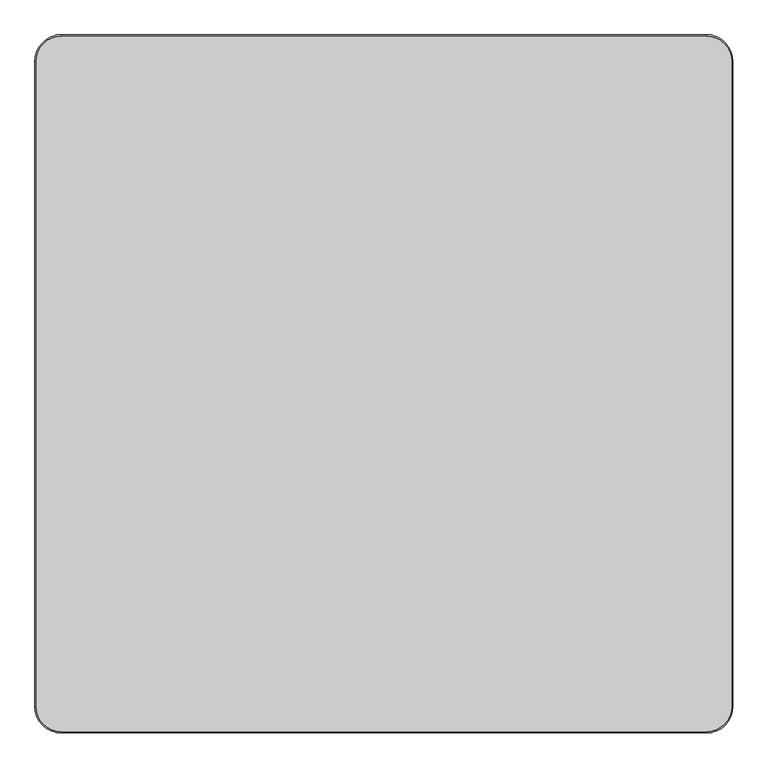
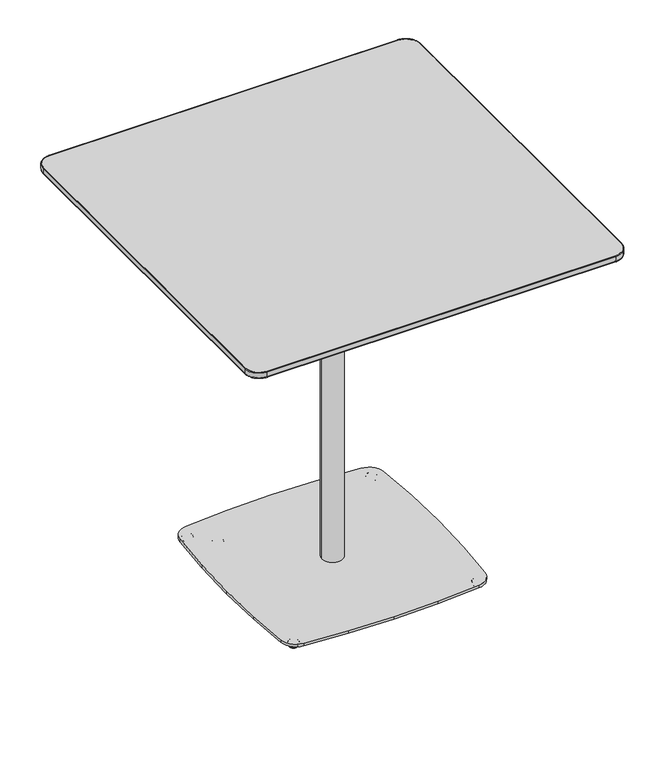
"""IFC4 building model written with IfcOpenShell, lengths in millimetres: furniture geometry, Coalesse_AM_Table_Occasional_Montara650Table_CafeHeight_Square : Bar Height - 42D x 42W."""

from ifc_helpers import new_model, si_unit, point, frame, frame_2d, origin, place, context, project, spatial, polyline, circle_curve, ellipse_curve, trimmed, segment, composite_curve, outline, extrude, source, transform, mapped, element, save
from ifc_brep_helpers import plane_surface, cylinder_surface, revolved_surface, spline_surface, advanced_brep


def furniture_814abe16(model_context):
    return source(origin(), model_context, "Body", "SolidModel", [
        advanced_brep(
        [(252.3158533, 252.1363755, 0.0), (267.0011381, 266.8216603, 0.0), (259.6584957, 259.4790179, 0.0), (251.7693511, 251.5898733, 0.5718943), (267.5476403, 267.3681625, 0.5718943), (249.470252, 249.2907742, 11.2068005), (269.8467394, 269.6672616, 11.2068005), (249.8852728, 249.705795, 11.9999882), (269.4317186, 269.2522408, 11.9999882), (259.6584957, 259.4790179, 11.9999882)],
        [
            (0, 1, circle_curve(frame((259.6584957, 259.4790179, 0.0), z_axis=(0.0, 0.0, -1.0), x_axis=(0.7071067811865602, 0.7071067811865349, 0.0)), 10.3840645)),
            (1, 2),
            (2, 0),
            (1, 0, circle_curve(frame((259.6584957, 259.4790179, 0.0), z_axis=(0.0, 0.0, -1.0), x_axis=(0.7071067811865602, 0.7071067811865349, 0.0)), 10.3840645)),
            (3, 4, circle_curve(frame((259.6584957, 259.4790179, 0.5718943), z_axis=(0.0, 0.0, -1.0), x_axis=(0.7071067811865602, 0.7071067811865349, 0.0)), 11.1569353)),
            (4, 1, circle_curve(frame((267.0011381, 266.8216603, 0.8081846), z_axis=(-0.7071067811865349, 0.7071067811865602, 0.0), x_axis=(0.7071067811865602, 0.7071067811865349, 0.0)), 0.8081846)),
            (0, 3, circle_curve(frame((252.3158533, 252.1363755, 0.8081846), z_axis=(-0.7071067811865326, 0.7071067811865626, 0.0), x_axis=(-0.7071067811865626, -0.7071067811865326, 0.0)), 0.8081846)),
            (4, 3, circle_curve(frame((259.6584957, 259.4790179, 0.5718943), z_axis=(0.0, 0.0, -1.0), x_axis=(0.7071067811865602, 0.7071067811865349, 0.0)), 11.1569353)),
            (5, 6, circle_curve(frame((259.6584957, 259.4790179, 11.2068005), z_axis=(0.0, 0.0, -1.0), x_axis=(0.7071067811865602, 0.7071067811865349, 0.0)), 14.4083524)),
            (6, 4),
            (3, 5),
            (6, 5, circle_curve(frame((259.6584957, 259.4790179, 11.2068005), z_axis=(0.0, 0.0, -1.0), x_axis=(0.7071067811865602, 0.7071067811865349, 0.0)), 14.4083524)),
            (7, 8, circle_curve(frame((259.6584957, 259.4790179, 11.9999882), z_axis=(0.0, 0.0, -1.0), x_axis=(0.7071067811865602, 0.7071067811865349, 0.0)), 13.8214243)),
            (8, 6, circle_curve(frame((269.4317186, 269.2522408, 11.3862424), z_axis=(-0.7071067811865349, 0.7071067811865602, 0.0), x_axis=(0.7071067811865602, 0.7071067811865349, 0.0)), 0.6137458)),
            (5, 7, circle_curve(frame((249.8852728, 249.705795, 11.3862424), z_axis=(-0.7071067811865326, 0.7071067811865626, 0.0), x_axis=(-0.7071067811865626, -0.7071067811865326, 0.0)), 0.6137458)),
            (8, 7, circle_curve(frame((259.6584957, 259.4790179, 11.9999882), z_axis=(0.0, 0.0, -1.0), x_axis=(0.7071067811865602, 0.7071067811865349, 0.0)), 13.8214243)),
            (9, 8),
            (7, 9),
        ],
        [
            plane_surface(frame((259.6584957, 259.4790179, 0.0), z_axis=(0.0, 0.0, -1.0000000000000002), x_axis=(0.7071067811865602, 0.7071067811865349, 0.0))),
            revolved_surface(trimmed(ellipse_curve(frame((267.0011381, 266.8216603, 0.8081846), z_axis=(0.7071067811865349, -0.7071067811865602, 0.0), x_axis=(0.7071067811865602, 0.7071067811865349, 0.0)), 0.8081846, 0.8081846), [point((267.0011381, 266.8216603, 0.0))], [point((267.5476403, 267.3681625, 0.5718943))], True, "CARTESIAN"), (259.6584957, 259.4790179, 12.2086845), (0.0, 0.0, 1.0)),
            revolved_surface(polyline([(267.5476403, 267.3681625, 0.5718943), (269.8467394, 269.6672616, 11.2068005)]), (259.6584957, 259.4790179, 12.2086845), (0.0, 0.0, 1.0)),
            revolved_surface(trimmed(ellipse_curve(frame((269.4317186, 269.2522408, 11.3862424), z_axis=(0.7071067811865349, -0.7071067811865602, 0.0), x_axis=(0.7071067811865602, 0.7071067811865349, 0.0)), 0.6137458, 0.6137458), [point((269.8467394, 269.6672616, 11.2068005))], [point((269.4317186, 269.2522408, 11.9999882))], True, "CARTESIAN"), (259.6584957, 259.4790179, 12.2086845), (0.0, 0.0, 1.0)),
            plane_surface(frame((259.6584957, 259.4790179, 11.9999882), z_axis=(0.0, 0.0, 1.0000000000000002), x_axis=(0.7071067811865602, 0.7071067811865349, 0.0))),
        ],
        [
            (0, [[1, 2, 3]]),
            (0, [[4, -3, -2]]),
            (1, [[5, 6, -1, 7]]),
            (1, [[8, -7, -4, -6]]),
            (2, [[9, 10, -5, 11]]),
            (2, [[12, -11, -8, -10]]),
            (3, [[13, 14, -9, 15]]),
            (3, [[16, -15, -12, -14]]),
            (4, [[17, -13, 18]]),
            (4, [[-18, -16, -17]]),
        ],
    ),
        advanced_brep(
        [(259.8015382, -259.9111532, 0.0), (267.1441807, -267.2537956, 0.0), (252.4588958, -252.5685107, 0.0), (267.6906828, -267.8002977, 0.5718943), (251.9123937, -252.0220086, 0.5718943), (269.9897819, -270.0993968, 11.2068005), (249.6132946, -249.7229095, 11.2068005), (269.5747611, -269.684376, 11.9999882), (250.0283154, -250.1379303, 11.9999882), (259.8015382, -259.9111532, 11.9999882)],
        [
            (0, 1),
            (1, 2, circle_curve(frame((259.8015382, -259.9111532, 0.0), z_axis=(0.0, 0.0, -1.0), x_axis=(0.7071067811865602, -0.7071067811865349, 0.0)), 10.3840645)),
            (2, 0),
            (2, 1, circle_curve(frame((259.8015382, -259.9111532, 0.0), z_axis=(0.0, 0.0, -1.0), x_axis=(0.7071067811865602, -0.7071067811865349, 0.0)), 10.3840645)),
            (1, 3, circle_curve(frame((267.1441807, -267.2537956, 0.8081846), z_axis=(-0.7071067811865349, -0.7071067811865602, 0.0), x_axis=(0.7071067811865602, -0.7071067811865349, 0.0)), 0.8081846)),
            (3, 4, circle_curve(frame((259.8015382, -259.9111532, 0.5718943), z_axis=(0.0, 0.0, -1.0), x_axis=(0.7071067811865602, -0.7071067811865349, 0.0)), 11.1569353)),
            (4, 2, circle_curve(frame((252.4588958, -252.5685107, 0.8081846), z_axis=(-0.7071067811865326, -0.7071067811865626, 0.0), x_axis=(-0.7071067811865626, 0.7071067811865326, 0.0)), 0.8081846)),
            (4, 3, circle_curve(frame((259.8015382, -259.9111532, 0.5718943), z_axis=(0.0, 0.0, -1.0), x_axis=(0.7071067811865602, -0.7071067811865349, 0.0)), 11.1569353)),
            (3, 5),
            (5, 6, circle_curve(frame((259.8015382, -259.9111532, 11.2068005), z_axis=(0.0, 0.0, -1.0), x_axis=(0.7071067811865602, -0.7071067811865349, 0.0)), 14.4083524)),
            (6, 4),
            (6, 5, circle_curve(frame((259.8015382, -259.9111532, 11.2068005), z_axis=(0.0, 0.0, -1.0), x_axis=(0.7071067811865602, -0.7071067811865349, 0.0)), 14.4083524)),
            (5, 7, circle_curve(frame((269.5747611, -269.684376, 11.3862424), z_axis=(-0.7071067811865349, -0.7071067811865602, 0.0), x_axis=(0.7071067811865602, -0.7071067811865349, 0.0)), 0.6137458)),
            (7, 8, circle_curve(frame((259.8015382, -259.9111532, 11.9999882), z_axis=(0.0, 0.0, -1.0), x_axis=(0.7071067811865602, -0.7071067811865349, 0.0)), 13.8214243)),
            (8, 6, circle_curve(frame((250.0283154, -250.1379303, 11.3862424), z_axis=(-0.7071067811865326, -0.7071067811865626, 0.0), x_axis=(-0.7071067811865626, 0.7071067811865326, 0.0)), 0.6137458)),
            (8, 7, circle_curve(frame((259.8015382, -259.9111532, 11.9999882), z_axis=(0.0, 0.0, -1.0), x_axis=(0.7071067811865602, -0.7071067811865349, 0.0)), 13.8214243)),
            (7, 9),
            (9, 8),
        ],
        [
            plane_surface(frame((259.8015382, -259.9111532, 0.0), z_axis=(0.0, 0.0, -1.0000000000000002), x_axis=(0.7071067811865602, -0.7071067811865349, 0.0))),
            revolved_surface(trimmed(ellipse_curve(frame((267.1441807, -267.2537956, 0.8081846), z_axis=(0.7071067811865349, 0.7071067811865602, 0.0), x_axis=(0.7071067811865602, -0.7071067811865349, 0.0)), 0.8081846, 0.8081846), [point((267.6906828, -267.8002977, 0.5718943))], [point((267.1441807, -267.2537956, 0.0))], True, "CARTESIAN"), (259.8015382, -259.9111532, 12.2086845), (0.0, 0.0, -1.0)),
            revolved_surface(polyline([(269.9897819, -270.0993968, 11.2068005), (267.6906828, -267.8002977, 0.5718943)]), (259.8015382, -259.9111532, 12.2086845), (0.0, 0.0, -1.0)),
            revolved_surface(trimmed(ellipse_curve(frame((269.5747611, -269.684376, 11.3862424), z_axis=(0.7071067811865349, 0.7071067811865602, 0.0), x_axis=(0.7071067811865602, -0.7071067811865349, 0.0)), 0.6137458, 0.6137458), [point((269.5747611, -269.684376, 11.9999882))], [point((269.9897819, -270.0993968, 11.2068005))], True, "CARTESIAN"), (259.8015382, -259.9111532, 12.2086845), (0.0, 0.0, -1.0)),
            plane_surface(frame((259.8015382, -259.9111532, 11.9999882), z_axis=(0.0, 0.0, 1.0000000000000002), x_axis=(0.7071067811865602, -0.7071067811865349, 0.0))),
        ],
        [
            (0, [[1, 2, 3]]),
            (0, [[-3, 4, -1]]),
            (1, [[-2, 5, 6, 7]]),
            (1, [[-4, -7, 8, -5]]),
            (2, [[-6, 9, 10, 11]]),
            (2, [[-8, -11, 12, -9]]),
            (3, [[-10, 13, 14, 15]]),
            (3, [[-12, -15, 16, -13]]),
            (4, [[-14, 17, 18]]),
            (4, [[-16, -18, -17]]),
        ],
    ),
        extrude(outline(composite_curve([segment(trimmed(circle_curve(frame_2d((-243.9942116, 243.996709)), 44.45), [point((-288.3392595, 247.0494508))], [point((-247.0469534, 288.3417568))], False, "CARTESIAN"), True, "CONTINUOUS"), segment(polyline([(-247.0469534, 288.3417568), (-126.1187996, 296.6665291), (-0.0009163, 300.0012093), (126.116967, 296.6665291), (247.0474572, 288.341596)]), True, "CONTINUOUS"), segment(trimmed(circle_curve(frame_2d((243.9947155, 243.9965482)), 44.45), [point((247.0474572, 288.341596))], [point((288.3397633, 247.0492899))], False, "CARTESIAN"), True, "CONTINUOUS"), segment(polyline([(288.3397633, 247.0492899), (296.6646964, 126.1187996), (299.9993766, 0.0009163), (296.6646964, -126.116967), (288.3399178, -247.0452123)]), True, "CONTINUOUS"), segment(trimmed(circle_curve(frame_2d((243.99487, -243.9924705)), 44.45), [point((288.3399178, -247.0452123))], [point((247.0484272, -288.3374622))], False, "CARTESIAN"), True, "CONTINUOUS"), segment(polyline([(247.0484272, -288.3374622), (126.116967, -296.6646964), (-0.0009163, -299.9993766), (-126.1187996, -296.6646964), (-247.0479234, -288.3376231)]), True, "CONTINUOUS"), segment(trimmed(circle_curve(frame_2d((-243.9943662, -243.9926314)), 44.45), [point((-247.0479234, -288.3376231))], [point((-288.339414, -247.0453732))], False, "CARTESIAN"), True, "CONTINUOUS"), segment(polyline([(-288.339414, -247.0453732), (-296.6642037, -126.116967), (-299.9988839, 0.0009163), (-296.6642037, 126.1187996), (-288.3392595, 247.0494508)]), True, "CONTINUOUS")], self_intersect=False)), frame((0.0, 0.0, 11.9999882), z_axis=(0.0, 0.0, 1.0), x_axis=(1.0, 0.0, 0.0)), (0.0, 0.0, 1.0), 8.0000083),
        advanced_brep(
        [(-259.8122576, 259.6204684, 0.0), (-267.1549, 266.9631108, 0.0), (-252.4696151, 252.277826, 0.0), (-267.7014021, 267.509613, 0.5718943), (-251.923113, 251.7313238, 0.5718943), (-270.0005012, 269.8087121, 11.2068005), (-249.6240139, 249.4322247, 11.2068005), (-269.5854804, 269.3936913, 11.9999882), (-250.0390347, 249.8472455, 11.9999882), (-259.8122576, 259.6204684, 11.9999882)],
        [
            (0, 1),
            (1, 2, circle_curve(frame((-259.8122576, 259.6204684, 0.0), z_axis=(0.0, 0.0, -1.0), x_axis=(-0.7071067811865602, 0.7071067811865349, 0.0)), 10.3840645)),
            (2, 0),
            (2, 1, circle_curve(frame((-259.8122576, 259.6204684, 0.0), z_axis=(0.0, 0.0, -1.0), x_axis=(-0.7071067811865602, 0.7071067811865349, 0.0)), 10.3840645)),
            (1, 3, circle_curve(frame((-267.1549, 266.9631108, 0.8081846), z_axis=(0.7071067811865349, 0.7071067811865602, 0.0), x_axis=(-0.7071067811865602, 0.7071067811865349, 0.0)), 0.8081846)),
            (3, 4, circle_curve(frame((-259.8122576, 259.6204684, 0.5718943), z_axis=(0.0, 0.0, -1.0), x_axis=(-0.7071067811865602, 0.7071067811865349, 0.0)), 11.1569353)),
            (4, 2, circle_curve(frame((-252.4696151, 252.277826, 0.8081846), z_axis=(0.7071067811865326, 0.7071067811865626, 0.0), x_axis=(0.7071067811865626, -0.7071067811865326, 0.0)), 0.8081846)),
            (4, 3, circle_curve(frame((-259.8122576, 259.6204684, 0.5718943), z_axis=(0.0, 0.0, -1.0), x_axis=(-0.7071067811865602, 0.7071067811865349, 0.0)), 11.1569353)),
            (3, 5),
            (5, 6, circle_curve(frame((-259.8122576, 259.6204684, 11.2068005), z_axis=(0.0, 0.0, -1.0), x_axis=(-0.7071067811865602, 0.7071067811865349, 0.0)), 14.4083524)),
            (6, 4),
            (6, 5, circle_curve(frame((-259.8122576, 259.6204684, 11.2068005), z_axis=(0.0, 0.0, -1.0), x_axis=(-0.7071067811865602, 0.7071067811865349, 0.0)), 14.4083524)),
            (5, 7, circle_curve(frame((-269.5854804, 269.3936913, 11.3862424), z_axis=(0.7071067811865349, 0.7071067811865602, 0.0), x_axis=(-0.7071067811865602, 0.7071067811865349, 0.0)), 0.6137458)),
            (7, 8, circle_curve(frame((-259.8122576, 259.6204684, 11.9999882), z_axis=(0.0, 0.0, -1.0), x_axis=(-0.7071067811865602, 0.7071067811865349, 0.0)), 13.8214243)),
            (8, 6, circle_curve(frame((-250.0390347, 249.8472455, 11.3862424), z_axis=(0.7071067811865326, 0.7071067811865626, 0.0), x_axis=(0.7071067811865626, -0.7071067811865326, 0.0)), 0.6137458)),
            (8, 7, circle_curve(frame((-259.8122576, 259.6204684, 11.9999882), z_axis=(0.0, 0.0, -1.0), x_axis=(-0.7071067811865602, 0.7071067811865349, 0.0)), 13.8214243)),
            (7, 9),
            (9, 8),
        ],
        [
            plane_surface(frame((-259.8122576, 259.6204684, 0.0), z_axis=(0.0, 0.0, -1.0000000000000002), x_axis=(-0.7071067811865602, 0.7071067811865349, 0.0))),
            revolved_surface(trimmed(ellipse_curve(frame((-267.1549, 266.9631108, 0.8081846), z_axis=(-0.7071067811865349, -0.7071067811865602, 0.0), x_axis=(-0.7071067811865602, 0.7071067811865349, 0.0)), 0.8081846, 0.8081846), [point((-267.7014021, 267.509613, 0.5718943))], [point((-267.1549, 266.9631108, 0.0))], True, "CARTESIAN"), (-259.8122576, 259.6204684, 12.2086845), (0.0, 0.0, -1.0)),
            revolved_surface(polyline([(-270.0005012, 269.8087121, 11.2068005), (-267.7014021, 267.509613, 0.5718943)]), (-259.8122576, 259.6204684, 12.2086845), (0.0, 0.0, -1.0)),
            revolved_surface(trimmed(ellipse_curve(frame((-269.5854804, 269.3936913, 11.3862424), z_axis=(-0.7071067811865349, -0.7071067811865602, 0.0), x_axis=(-0.7071067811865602, 0.7071067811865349, 0.0)), 0.6137458, 0.6137458), [point((-269.5854804, 269.3936913, 11.9999882))], [point((-270.0005012, 269.8087121, 11.2068005))], True, "CARTESIAN"), (-259.8122576, 259.6204684, 12.2086845), (0.0, 0.0, -1.0)),
            plane_surface(frame((-259.8122576, 259.6204684, 11.9999882), z_axis=(0.0, 0.0, 1.0000000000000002), x_axis=(-0.7071067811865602, 0.7071067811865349, 0.0))),
        ],
        [
            (0, [[1, 2, 3]]),
            (0, [[-3, 4, -1]]),
            (1, [[-2, 5, 6, 7]]),
            (1, [[-4, -7, 8, -5]]),
            (2, [[-6, 9, 10, 11]]),
            (2, [[-8, -11, 12, -9]]),
            (3, [[-10, 13, 14, 15]]),
            (3, [[-12, -15, 16, -13]]),
            (4, [[-14, 17, 18]]),
            (4, [[-16, -18, -17]]),
        ],
    ),
        advanced_brep(
        [(-252.8175248, -252.4969322, 0.0), (-267.5028096, -267.182217, 0.0), (-260.1601672, -259.8395746, 0.0), (-252.2710226, -251.95043, 0.5718943), (-268.0493118, -267.7287192, 0.5718943), (-249.9719235, -249.6513309, 11.2068005), (-270.3484109, -270.0278183, 11.2068005), (-250.3869443, -250.0663517, 11.9999882), (-269.9333901, -269.6127975, 11.9999882), (-260.1601672, -259.8395746, 11.9999882)],
        [
            (0, 1, circle_curve(frame((-260.1601672, -259.8395746, 0.0), z_axis=(0.0, 0.0, -1.0), x_axis=(-0.7071067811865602, -0.7071067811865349, 0.0)), 10.3840645)),
            (1, 2),
            (2, 0),
            (1, 0, circle_curve(frame((-260.1601672, -259.8395746, 0.0), z_axis=(0.0, 0.0, -1.0), x_axis=(-0.7071067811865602, -0.7071067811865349, 0.0)), 10.3840645)),
            (3, 4, circle_curve(frame((-260.1601672, -259.8395746, 0.5718943), z_axis=(0.0, 0.0, -1.0), x_axis=(-0.7071067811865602, -0.7071067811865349, 0.0)), 11.1569353)),
            (4, 1, circle_curve(frame((-267.5028096, -267.182217, 0.8081846), z_axis=(0.7071067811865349, -0.7071067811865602, 0.0), x_axis=(-0.7071067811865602, -0.7071067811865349, 0.0)), 0.8081846)),
            (0, 3, circle_curve(frame((-252.8175248, -252.4969322, 0.8081846), z_axis=(0.7071067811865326, -0.7071067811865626, 0.0), x_axis=(0.7071067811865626, 0.7071067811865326, 0.0)), 0.8081846)),
            (4, 3, circle_curve(frame((-260.1601672, -259.8395746, 0.5718943), z_axis=(0.0, 0.0, -1.0), x_axis=(-0.7071067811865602, -0.7071067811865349, 0.0)), 11.1569353)),
            (5, 6, circle_curve(frame((-260.1601672, -259.8395746, 11.2068005), z_axis=(0.0, 0.0, -1.0), x_axis=(-0.7071067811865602, -0.7071067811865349, 0.0)), 14.4083524)),
            (6, 4),
            (3, 5),
            (6, 5, circle_curve(frame((-260.1601672, -259.8395746, 11.2068005), z_axis=(0.0, 0.0, -1.0), x_axis=(-0.7071067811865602, -0.7071067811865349, 0.0)), 14.4083524)),
            (7, 8, circle_curve(frame((-260.1601672, -259.8395746, 11.9999882), z_axis=(0.0, 0.0, -1.0), x_axis=(-0.7071067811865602, -0.7071067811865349, 0.0)), 13.8214243)),
            (8, 6, circle_curve(frame((-269.9333901, -269.6127975, 11.3862424), z_axis=(0.7071067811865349, -0.7071067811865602, 0.0), x_axis=(-0.7071067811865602, -0.7071067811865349, 0.0)), 0.6137458)),
            (5, 7, circle_curve(frame((-250.3869443, -250.0663517, 11.3862424), z_axis=(0.7071067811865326, -0.7071067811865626, 0.0), x_axis=(0.7071067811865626, 0.7071067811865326, 0.0)), 0.6137458)),
            (8, 7, circle_curve(frame((-260.1601672, -259.8395746, 11.9999882), z_axis=(0.0, 0.0, -1.0), x_axis=(-0.7071067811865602, -0.7071067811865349, 0.0)), 13.8214243)),
            (9, 8),
            (7, 9),
        ],
        [
            plane_surface(frame((-260.1601672, -259.8395746, 0.0), z_axis=(0.0, 0.0, -1.0000000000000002), x_axis=(-0.7071067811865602, -0.7071067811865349, 0.0))),
            revolved_surface(trimmed(ellipse_curve(frame((-267.5028096, -267.182217, 0.8081846), z_axis=(-0.7071067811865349, 0.7071067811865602, 0.0), x_axis=(-0.7071067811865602, -0.7071067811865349, 0.0)), 0.8081846, 0.8081846), [point((-267.5028096, -267.182217, 0.0))], [point((-268.0493118, -267.7287192, 0.5718943))], True, "CARTESIAN"), (-260.1601672, -259.8395746, 12.2086845), (0.0, 0.0, 1.0)),
            revolved_surface(polyline([(-268.0493118, -267.7287192, 0.5718943), (-270.3484109, -270.0278183, 11.2068005)]), (-260.1601672, -259.8395746, 12.2086845), (0.0, 0.0, 1.0)),
            revolved_surface(trimmed(ellipse_curve(frame((-269.9333901, -269.6127975, 11.3862424), z_axis=(-0.7071067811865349, 0.7071067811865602, 0.0), x_axis=(-0.7071067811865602, -0.7071067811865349, 0.0)), 0.6137458, 0.6137458), [point((-270.3484109, -270.0278183, 11.2068005))], [point((-269.9333901, -269.6127975, 11.9999882))], True, "CARTESIAN"), (-260.1601672, -259.8395746, 12.2086845), (0.0, 0.0, 1.0)),
            plane_surface(frame((-260.1601672, -259.8395746, 11.9999882), z_axis=(0.0, 0.0, 1.0000000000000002), x_axis=(-0.7071067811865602, -0.7071067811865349, 0.0))),
        ],
        [
            (0, [[1, 2, 3]]),
            (0, [[4, -3, -2]]),
            (1, [[5, 6, -1, 7]]),
            (1, [[8, -7, -4, -6]]),
            (2, [[9, 10, -5, 11]]),
            (2, [[12, -11, -8, -10]]),
            (3, [[13, 14, -9, 15]]),
            (3, [[16, -15, -12, -14]]),
            (4, [[17, -13, 18]]),
            (4, [[-18, -16, -17]]),
        ],
    ),
        advanced_brep(
        [(-204.8873489, 205.5044028, 0.0), (-212.2299913, 212.8470453, 0.0), (-197.5447065, 198.1617604, 0.0), (-212.7764935, 213.3935474, 0.5718943), (-196.9982043, 197.6152583, 0.5718943), (-215.0755926, 215.6926465, 11.2068005), (-194.6991052, 195.3161592, 11.2068005), (-214.6605718, 215.2776257, 11.9999882), (-195.114126, 195.73118, 11.9999882), (-204.8873489, 205.5044028, 11.9999882)],
        [
            (0, 1),
            (1, 2, circle_curve(frame((-204.8873489, 205.5044028, 0.0), z_axis=(0.0, 0.0, -1.0), x_axis=(-0.7071067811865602, 0.7071067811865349, 0.0)), 10.3840645)),
            (2, 0),
            (2, 1, circle_curve(frame((-204.8873489, 205.5044028, 0.0), z_axis=(0.0, 0.0, -1.0), x_axis=(-0.7071067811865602, 0.7071067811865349, 0.0)), 10.3840645)),
            (1, 3, circle_curve(frame((-212.2299913, 212.8470453, 0.8081846), z_axis=(0.7071067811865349, 0.7071067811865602, 0.0), x_axis=(-0.7071067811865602, 0.7071067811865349, 0.0)), 0.8081846)),
            (3, 4, circle_curve(frame((-204.8873489, 205.5044028, 0.5718943), z_axis=(0.0, 0.0, -1.0), x_axis=(-0.7071067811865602, 0.7071067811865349, 0.0)), 11.1569353)),
            (4, 2, circle_curve(frame((-197.5447065, 198.1617604, 0.8081846), z_axis=(0.7071067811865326, 0.7071067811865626, 0.0), x_axis=(0.7071067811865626, -0.7071067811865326, 0.0)), 0.8081846)),
            (4, 3, circle_curve(frame((-204.8873489, 205.5044028, 0.5718943), z_axis=(0.0, 0.0, -1.0), x_axis=(-0.7071067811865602, 0.7071067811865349, 0.0)), 11.1569353)),
            (3, 5),
            (5, 6, circle_curve(frame((-204.8873489, 205.5044028, 11.2068005), z_axis=(0.0, 0.0, -1.0), x_axis=(-0.7071067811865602, 0.7071067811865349, 0.0)), 14.4083524)),
            (6, 4),
            (6, 5, circle_curve(frame((-204.8873489, 205.5044028, 11.2068005), z_axis=(0.0, 0.0, -1.0), x_axis=(-0.7071067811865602, 0.7071067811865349, 0.0)), 14.4083524)),
            (5, 7, circle_curve(frame((-214.6605718, 215.2776257, 11.3862424), z_axis=(0.7071067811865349, 0.7071067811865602, 0.0), x_axis=(-0.7071067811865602, 0.7071067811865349, 0.0)), 0.6137458)),
            (7, 8, circle_curve(frame((-204.8873489, 205.5044028, 11.9999882), z_axis=(0.0, 0.0, -1.0), x_axis=(-0.7071067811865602, 0.7071067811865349, 0.0)), 13.8214243)),
            (8, 6, circle_curve(frame((-195.114126, 195.73118, 11.3862424), z_axis=(0.7071067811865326, 0.7071067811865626, 0.0), x_axis=(0.7071067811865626, -0.7071067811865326, 0.0)), 0.6137458)),
            (8, 7, circle_curve(frame((-204.8873489, 205.5044028, 11.9999882), z_axis=(0.0, 0.0, -1.0), x_axis=(-0.7071067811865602, 0.7071067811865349, 0.0)), 13.8214243)),
            (7, 9),
            (9, 8),
        ],
        [
            plane_surface(frame((-204.8873489, 205.5044028, 0.0), z_axis=(0.0, 0.0, -1.0000000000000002), x_axis=(-0.7071067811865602, 0.7071067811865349, 0.0))),
            revolved_surface(trimmed(ellipse_curve(frame((-212.2299913, 212.8470453, 0.8081846), z_axis=(-0.7071067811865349, -0.7071067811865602, 0.0), x_axis=(-0.7071067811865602, 0.7071067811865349, 0.0)), 0.8081846, 0.8081846), [point((-212.7764935, 213.3935474, 0.5718943))], [point((-212.2299913, 212.8470453, 0.0))], True, "CARTESIAN"), (-204.8873489, 205.5044028, 12.2086845), (0.0, 0.0, -1.0)),
            revolved_surface(polyline([(-215.0755926, 215.6926465, 11.2068005), (-212.7764935, 213.3935474, 0.5718943)]), (-204.8873489, 205.5044028, 12.2086845), (0.0, 0.0, -1.0)),
            revolved_surface(trimmed(ellipse_curve(frame((-214.6605718, 215.2776257, 11.3862424), z_axis=(-0.7071067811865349, -0.7071067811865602, 0.0), x_axis=(-0.7071067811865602, 0.7071067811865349, 0.0)), 0.6137458, 0.6137458), [point((-214.6605718, 215.2776257, 11.9999882))], [point((-215.0755926, 215.6926465, 11.2068005))], True, "CARTESIAN"), (-204.8873489, 205.5044028, 12.2086845), (0.0, 0.0, -1.0)),
            plane_surface(frame((-204.8873489, 205.5044028, 11.9999882), z_axis=(0.0, 0.0, 1.0000000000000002), x_axis=(-0.7071067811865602, 0.7071067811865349, 0.0))),
        ],
        [
            (0, [[1, 2, 3]]),
            (0, [[-3, 4, -1]]),
            (1, [[-2, 5, 6, 7]]),
            (1, [[-4, -7, 8, -5]]),
            (2, [[-6, 9, 10, 11]]),
            (2, [[-8, -11, 12, -9]]),
            (3, [[-10, 13, 14, 15]]),
            (3, [[-12, -15, 16, -13]]),
            (4, [[-14, 17, 18]]),
            (4, [[-16, -18, -17]]),
        ],
    ),
        advanced_brep(
        [(468.4626362, 468.4635082, 1036.830027), (468.4626362, -468.4635082, 1036.830027), (-468.4626362, -468.4635082, 1036.830027), (-468.4626362, 468.4635082, 1036.830027), (493.188625, 531.368, 1049.095891), (-493.188625, 531.368, 1049.095891), (-531.288625, 493.268, 1049.095891), (-531.288625, -493.268, 1049.095891), (-493.188625, -531.368, 1049.095891), (493.188625, -531.368, 1049.095891), (531.288625, -493.268, 1049.095891), (531.288625, 493.268, 1049.095891)],
        [
            (0, 1),
            (1, 2),
            (2, 3),
            (3, 0),
            (4, 5),
            (5, 6, circle_curve(frame((-493.188625, 493.268, 1049.095891), z_axis=(0.0, 0.0, 1.0), x_axis=(1.0, 0.0, 0.0)), 38.1)),
            (6, 7),
            (7, 8, circle_curve(frame((-493.188625, -493.268, 1049.095891), z_axis=(0.0, 0.0, 1.0), x_axis=(1.0, 0.0, 0.0)), 38.1)),
            (8, 9),
            (9, 10, circle_curve(frame((493.188625, -493.268, 1049.095891), z_axis=(0.0, 0.0, 1.0), x_axis=(1.0, 0.0, 0.0)), 38.1)),
            (10, 11),
            (11, 4, circle_curve(frame((493.188625, 493.268, 1049.095891), z_axis=(0.0, 0.0, 1.0), x_axis=(1.0, 0.0, 0.0)), 38.1)),
            (11, 0),
            (0, 4),
            (10, 1),
            (9, 1),
            (8, 2),
            (7, 2),
            (6, 3),
            (5, 3),
        ],
        [
            plane_surface(frame((0.0, 0.0, 1036.830027), z_axis=(0.0, 0.0, -1.0), x_axis=(-1.0, 0.0, 0.0))),
            plane_surface(frame((0.0, 0.0, 1049.095891), z_axis=(0.0, 0.0, 1.0), x_axis=(-1.0, 0.0, 0.0))),
            spline_surface(2, 1, [[(493.188625, 531.368, 1049.095891), (468.4626362, 468.4635082, 1036.830027)], [(531.2886250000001, 531.3680000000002, 1049.095891), (468.4626362, 468.4635082, 1036.830027)], [(531.288625, 493.268, 1049.095891), (468.4626362, 468.4635082, 1036.830027)]], [3, 3], [2, 2], [0.0, 1.0], [0.0, 1.0], weights=[[1.0, 1.0], [0.707106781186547, 0.707106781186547], [1.0, 1.0]]),
            plane_surface(frame((531.288625, 0.0, 1049.095891), z_axis=(0.19161772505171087, 0.0, -0.9814696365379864), x_axis=(0.0, -1.0, 0.0))),
            spline_surface(2, 1, [[(531.288625, -493.268, 1049.095891), (468.4626362, -468.4635082, 1036.830027)], [(531.2886249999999, -531.3679999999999, 1049.095891), (468.4626362, -468.4635082, 1036.830027)], [(493.188625, -531.368, 1049.095891), (468.4626362, -468.4635082, 1036.830027)]], [3, 3], [2, 2], [0.0, 1.0], [0.0, 1.0], weights=[[1.0, 1.0], [0.7071067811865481, 0.7071067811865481], [1.0, 1.0]]),
            plane_surface(frame((0.0, -531.368, 1049.095891), z_axis=(0.0, -0.19138735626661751, -0.9815145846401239), x_axis=(-1.0, 0.0, 0.0))),
            spline_surface(2, 1, [[(-493.188625, -531.368, 1049.095891), (-468.4626362, -468.4635082, 1036.830027)], [(-531.2886250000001, -531.3680000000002, 1049.095891), (-468.4626362, -468.4635082, 1036.830027)], [(-531.288625, -493.268, 1049.095891), (-468.4626362, -468.4635082, 1036.830027)]], [3, 3], [2, 2], [0.0, 1.0], [0.0, 1.0], weights=[[1.0, 1.0], [0.707106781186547, 0.707106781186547], [1.0, 1.0]]),
            plane_surface(frame((-531.288625, 0.0, 1049.095891), z_axis=(-0.1916177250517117, 0.0, -0.9814696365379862), x_axis=(0.0, 1.0, 0.0))),
            spline_surface(2, 1, [[(-531.288625, 493.268, 1049.095891), (-468.4626362, 468.4635082, 1036.830027)], [(-531.2886249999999, 531.3679999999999, 1049.095891), (-468.4626362, 468.4635082, 1036.830027)], [(-493.188625, 531.368, 1049.095891), (-468.4626362, 468.4635082, 1036.830027)]], [3, 3], [2, 2], [0.0, 1.0], [0.0, 1.0], weights=[[1.0, 1.0], [0.7071067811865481, 0.7071067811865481], [1.0, 1.0]]),
            plane_surface(frame((0.0, 531.368, 1049.095891), z_axis=(0.0, 0.19138735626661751, -0.9815145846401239), x_axis=(1.0, 0.0, 0.0))),
        ],
        [
            (0, [[1, 2, 3, 4]]),
            (1, [[5, 6, 7, 8, 9, 10, 11, 12]]),
            (2, [[-12, 13, 14]]),
            (3, [[-11, 15, -1, -13]]),
            (4, [[-10, 16, -15]]),
            (5, [[-9, 17, -2, -16]]),
            (6, [[-8, 18, -17]]),
            (7, [[-7, 19, -3, -18]]),
            (8, [[-6, 20, -19]]),
            (9, [[-5, -14, -4, -20]]),
        ],
    ),
        extrude(outline(composite_curve([segment(trimmed(circle_curve(frame_2d((493.188625, 493.268)), 38.1), [point((493.188625, 531.368))], [point((531.288625, 493.268))], False, "CARTESIAN"), True, "CONTINUOUS"), segment(polyline([(531.288625, 493.268), (531.288625, -493.268)]), True, "CONTINUOUS"), segment(trimmed(circle_curve(frame_2d((493.188625, -493.268)), 38.1), [point((531.288625, -493.268))], [point((493.188625, -531.368))], False, "CARTESIAN"), True, "CONTINUOUS"), segment(polyline([(493.188625, -531.368), (-493.188625, -531.368)]), True, "CONTINUOUS"), segment(trimmed(circle_curve(frame_2d((-493.188625, -493.268)), 38.1), [point((-493.188625, -531.368))], [point((-531.288625, -493.268))], False, "CARTESIAN"), True, "CONTINUOUS"), segment(polyline([(-531.288625, -493.268), (-531.288625, 493.268)]), True, "CONTINUOUS"), segment(trimmed(circle_curve(frame_2d((-493.188625, 493.268)), 38.1), [point((-531.288625, 493.268))], [point((-493.188625, 531.368))], False, "CARTESIAN"), True, "CONTINUOUS"), segment(polyline([(-493.188625, 531.368), (493.188625, 531.368)]), True, "CONTINUOUS")], self_intersect=False)), frame((0.0, 0.0, 1049.095891), z_axis=(0.0, 0.0, 1.0), x_axis=(1.0, 0.0, 0.0)), (0.0, 0.0, 1.0), 17.704109),
        advanced_brep(
        [(-533.3644915, 493.268, 1051.0278467), (-493.188625, 533.4438665, 1051.0278467), (-493.188625, 531.368, 1049.095891), (-531.288625, 493.268, 1049.095891), (-533.3644915, 493.268, 1064.7999283), (-493.188625, 533.4438665, 1064.7999283), (-531.288625, 493.268, 1066.8), (-493.188625, 531.368, 1066.8), (-531.288625, -493.268, 1049.095891), (-533.3644915, -493.268, 1051.0278467), (-533.3644915, -493.268, 1064.7999283), (-531.288625, -493.268, 1066.8), (-493.188625, -533.4438665, 1051.0278467), (-493.188625, -531.368, 1049.095891), (-493.188625, -533.4438665, 1064.7999283), (-493.188625, -531.368, 1066.8), (493.188625, -531.368, 1049.095891), (493.188625, -533.4438665, 1051.0278467), (493.188625, -533.4438665, 1064.7999283), (493.188625, -531.368, 1066.8), (533.3644915, -493.268, 1051.0278467), (531.288625, -493.268, 1049.095891), (533.3644915, -493.268, 1064.7999283), (531.288625, -493.268, 1066.8), (531.288625, 493.268, 1049.095891), (533.3644915, 493.268, 1051.0278467), (533.3644915, 493.268, 1064.7999283), (531.288625, 493.268, 1066.8), (493.188625, 533.4438665, 1051.0278467), (493.188625, 531.368, 1049.095891), (493.188625, 533.4438665, 1064.7999283), (493.188625, 531.368, 1066.8)],
        [
            (0, 1, circle_curve(frame((-493.188625, 493.268, 1051.0278467), z_axis=(0.0, 0.0, -1.0), x_axis=(0.0, 1.0, 0.0)), 40.1758665)),
            (1, 2, circle_curve(frame((-493.188625, 531.5069224, 1051.0278467), z_axis=(-1.0, 0.0, 0.0), x_axis=(0.0, -1.0, 0.0)), 1.9369441)),
            (2, 3, circle_curve(frame((-493.188625, 493.268, 1049.095891), z_axis=(0.0, 0.0, 1.0), x_axis=(0.0, 1.0, 0.0)), 38.1)),
            (3, 0, circle_curve(frame((-531.4275474, 493.268, 1051.0278467), z_axis=(0.0, 1.0, 0.0), x_axis=(1.0, 0.0, 0.0)), 1.9369441)),
            (4, 5, circle_curve(frame((-493.188625, 493.268, 1064.7999283), z_axis=(0.0, 0.0, -1.0), x_axis=(0.0, 1.0, 0.0)), 40.1758665)),
            (5, 1),
            (0, 4),
            (6, 7, circle_curve(frame((-493.188625, 493.268, 1066.8), z_axis=(0.0, 0.0, -1.0), x_axis=(0.0, 1.0, 0.0)), 38.1)),
            (7, 5, circle_curve(frame((-493.188625, 531.4424111, 1064.7999283), z_axis=(-1.0, 0.0, 0.0), x_axis=(0.0, -1.0, 0.0)), 2.0014554)),
            (4, 6, circle_curve(frame((-531.3630361, 493.268, 1064.7999283), z_axis=(0.0, 1.0, 0.0), x_axis=(1.0, 0.0, 0.0)), 2.0014554)),
            (2, 7),
            (6, 3),
            (3, 8),
            (8, 9, circle_curve(frame((-531.4275474, -493.268, 1051.0278467), z_axis=(0.0, 1.0, 0.0), x_axis=(1.0, 0.0, 0.0)), 1.9369441)),
            (9, 0),
            (9, 10),
            (10, 4),
            (10, 11, circle_curve(frame((-531.3630361, -493.268, 1064.7999283), z_axis=(0.0, 1.0, 0.0), x_axis=(1.0, 0.0, 0.0)), 2.0014554)),
            (11, 6),
            (11, 8),
            (12, 9, circle_curve(frame((-493.188625, -493.268, 1051.0278467), z_axis=(0.0, 0.0, -1.0), x_axis=(-1.0, 0.0, 0.0)), 40.1758665)),
            (8, 13, circle_curve(frame((-493.188625, -493.268, 1049.095891), z_axis=(0.0, 0.0, 1.0), x_axis=(-1.0, 0.0, 0.0)), 38.1)),
            (13, 12, circle_curve(frame((-493.188625, -531.5069224, 1051.0278467), z_axis=(-1.0, 0.0, 0.0), x_axis=(0.0, 1.0, 0.0)), 1.9369441)),
            (14, 10, circle_curve(frame((-493.188625, -493.268, 1064.7999283), z_axis=(0.0, 0.0, -1.0), x_axis=(-1.0, 0.0, 0.0)), 40.1758665)),
            (12, 14),
            (15, 11, circle_curve(frame((-493.188625, -493.268, 1066.8), z_axis=(0.0, 0.0, -1.0), x_axis=(-1.0, 0.0, 0.0)), 38.1)),
            (14, 15, circle_curve(frame((-493.188625, -531.4424111, 1064.7999283), z_axis=(-1.0, 0.0, 0.0), x_axis=(0.0, 1.0, 0.0)), 2.0014554)),
            (15, 13),
            (13, 16),
            (16, 17, circle_curve(frame((493.188625, -531.5069224, 1051.0278467), z_axis=(-1.0, 0.0, 0.0), x_axis=(0.0, 1.0, 0.0)), 1.9369441)),
            (17, 12),
            (17, 18),
            (18, 14),
            (18, 19, circle_curve(frame((493.188625, -531.4424111, 1064.7999283), z_axis=(-1.0, 0.0, 0.0), x_axis=(0.0, 1.0, 0.0)), 2.0014554)),
            (19, 15),
            (19, 16),
            (20, 17, circle_curve(frame((493.188625, -493.268, 1051.0278467), z_axis=(0.0, 0.0, -1.0), x_axis=(0.0, -1.0, 0.0)), 40.1758665)),
            (16, 21, circle_curve(frame((493.188625, -493.268, 1049.095891), z_axis=(0.0, 0.0, 1.0), x_axis=(0.0, -1.0, 0.0)), 38.1)),
            (21, 20, circle_curve(frame((531.4275474, -493.268, 1051.0278467), z_axis=(0.0, -1.0, 0.0), x_axis=(-1.0, 0.0, 0.0)), 1.9369441)),
            (22, 18, circle_curve(frame((493.188625, -493.268, 1064.7999283), z_axis=(0.0, 0.0, -1.0), x_axis=(0.0, -1.0, 0.0)), 40.1758665)),
            (20, 22),
            (23, 19, circle_curve(frame((493.188625, -493.268, 1066.8), z_axis=(0.0, 0.0, -1.0), x_axis=(0.0, -1.0, 0.0)), 38.1)),
            (22, 23, circle_curve(frame((531.3630361, -493.268, 1064.7999283), z_axis=(0.0, -1.0, 0.0), x_axis=(-1.0, 0.0, 0.0)), 2.0014554)),
            (23, 21),
            (21, 24),
            (24, 25, circle_curve(frame((531.4275474, 493.268, 1051.0278467), z_axis=(0.0, -1.0, 0.0), x_axis=(-1.0, 0.0, 0.0)), 1.9369441)),
            (25, 20),
            (25, 26),
            (26, 22),
            (26, 27, circle_curve(frame((531.3630361, 493.268, 1064.7999283), z_axis=(0.0, -1.0, 0.0), x_axis=(-1.0, 0.0, 0.0)), 2.0014554)),
            (27, 23),
            (27, 24),
            (28, 25, circle_curve(frame((493.188625, 493.268, 1051.0278467), z_axis=(0.0, 0.0, -1.0), x_axis=(1.0, 0.0, 0.0)), 40.1758665)),
            (24, 29, circle_curve(frame((493.188625, 493.268, 1049.095891), z_axis=(0.0, 0.0, 1.0), x_axis=(1.0, 0.0, 0.0)), 38.1)),
            (29, 28, circle_curve(frame((493.188625, 531.5069224, 1051.0278467), z_axis=(1.0, 0.0, 0.0), x_axis=(0.0, -1.0, 0.0)), 1.9369441)),
            (30, 26, circle_curve(frame((493.188625, 493.268, 1064.7999283), z_axis=(0.0, 0.0, -1.0), x_axis=(1.0, 0.0, 0.0)), 40.1758665)),
            (28, 30),
            (31, 27, circle_curve(frame((493.188625, 493.268, 1066.8), z_axis=(0.0, 0.0, -1.0), x_axis=(1.0, 0.0, 0.0)), 38.1)),
            (30, 31, circle_curve(frame((493.188625, 531.4424111, 1064.7999283), z_axis=(1.0, 0.0, 0.0), x_axis=(0.0, -1.0, 0.0)), 2.0014554)),
            (31, 29),
            (29, 2),
            (1, 28),
            (5, 30),
            (7, 31),
        ],
        [
            revolved_surface(trimmed(ellipse_curve(frame((-493.188625, 531.5069224, 1051.0278467), z_axis=(1.0, 0.0, 0.0), x_axis=(0.0, -1.0, 0.0)), 1.9369441, 1.9369441), [point((-493.188625, 531.368, 1049.095891))], [point((-493.188625, 533.4438665, 1051.0278467))], True, "CARTESIAN"), (-493.188625, 493.268, 0.0), (0.0, 0.0, 1.0)),
            cylinder_surface(frame((-493.188625, 493.268, 0.0), z_axis=(0.0, 0.0, 1.0), x_axis=(0.0, 1.0, 0.0)), 40.1758665),
            revolved_surface(trimmed(ellipse_curve(frame((-493.188625, 531.4424111, 1064.7999283), z_axis=(1.0, 0.0, 0.0), x_axis=(0.0, -1.0, 0.0)), 2.0014554, 2.0014554), [point((-493.188625, 533.4438665, 1064.7999283))], [point((-493.188625, 531.368, 1066.8))], True, "CARTESIAN"), (-493.188625, 493.268, 0.0), (0.0, 0.0, 1.0)),
            revolved_surface(polyline([(-493.188625, 531.3679999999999, 1066.8), (-493.188625, 531.3679999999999, 1049.095891)]), (-493.188625, 493.268, 0.0), (0.0, 0.0, 1.0)),
            cylinder_surface(frame((-531.4275474, 493.268, 1051.0278467), z_axis=(0.0, 1.0, 0.0), x_axis=(1.0, 0.0, 0.0)), 1.9369441),
            plane_surface(frame((-533.3644915, 493.268, 1051.0278467), z_axis=(-1.0, 0.0, 0.0), x_axis=(0.0, -1.0, 0.0))),
            cylinder_surface(frame((-531.3630361, 493.268, 1064.7999283), z_axis=(0.0, 1.0, 0.0), x_axis=(1.0, 0.0, 0.0)), 2.0014554),
            plane_surface(frame((-531.288625, 493.268, 1066.8), z_axis=(1.0, 0.0, 0.0), x_axis=(0.0, -1.0, 0.0))),
            revolved_surface(trimmed(ellipse_curve(frame((-531.4275474, -493.268, 1051.0278467), z_axis=(0.0, 1.0, 0.0), x_axis=(1.0, 0.0, 0.0)), 1.9369441, 1.9369441), [point((-531.288625, -493.268, 1049.095891))], [point((-533.3644915, -493.268, 1051.0278467))], True, "CARTESIAN"), (-493.188625, -493.268, 0.0), (0.0, 0.0, 1.0)),
            cylinder_surface(frame((-493.188625, -493.268, 0.0), z_axis=(0.0, 0.0, 1.0), x_axis=(-1.0, 0.0, 0.0)), 40.1758665),
            revolved_surface(trimmed(ellipse_curve(frame((-531.3630361, -493.268, 1064.7999283), z_axis=(0.0, 1.0, 0.0), x_axis=(1.0, 0.0, 0.0)), 2.0014554, 2.0014554), [point((-533.3644915, -493.268, 1064.7999283))], [point((-531.288625, -493.268, 1066.8))], True, "CARTESIAN"), (-493.188625, -493.268, 0.0), (0.0, 0.0, 1.0)),
            revolved_surface(polyline([(-531.288625, -493.268, 1066.8), (-531.288625, -493.268, 1049.095891)]), (-493.188625, -493.268, 0.0), (0.0, 0.0, 1.0)),
            cylinder_surface(frame((-493.188625, -531.5069224, 1051.0278467), z_axis=(-1.0, 0.0, 0.0), x_axis=(0.0, 1.0, 0.0)), 1.9369441),
            plane_surface(frame((-493.188625, -533.4438665, 1051.0278467), z_axis=(0.0, -1.0, 0.0), x_axis=(1.0, 0.0, 0.0))),
            cylinder_surface(frame((-493.188625, -531.4424111, 1064.7999283), z_axis=(-1.0, 0.0, 0.0), x_axis=(0.0, 1.0, 0.0)), 2.0014554),
            plane_surface(frame((-493.188625, -531.368, 1066.8), z_axis=(0.0, 1.0, 0.0), x_axis=(1.0, 0.0, 0.0))),
            revolved_surface(trimmed(ellipse_curve(frame((493.188625, -531.5069224, 1051.0278467), z_axis=(-1.0, 0.0, 0.0), x_axis=(0.0, 1.0, 0.0)), 1.9369441, 1.9369441), [point((493.188625, -531.368, 1049.095891))], [point((493.188625, -533.4438665, 1051.0278467))], True, "CARTESIAN"), (493.188625, -493.268, 0.0), (0.0, 0.0, 1.0)),
            cylinder_surface(frame((493.188625, -493.268, 0.0), z_axis=(0.0, 0.0, 1.0), x_axis=(0.0, -1.0, 0.0)), 40.1758665),
            revolved_surface(trimmed(ellipse_curve(frame((493.188625, -531.4424111, 1064.7999283), z_axis=(-1.0, 0.0, 0.0), x_axis=(0.0, 1.0, 0.0)), 2.0014554, 2.0014554), [point((493.188625, -533.4438665, 1064.7999283))], [point((493.188625, -531.368, 1066.8))], True, "CARTESIAN"), (493.188625, -493.268, 0.0), (0.0, 0.0, 1.0)),
            revolved_surface(polyline([(493.188625, -531.3679999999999, 1066.8), (493.188625, -531.3679999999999, 1049.095891)]), (493.188625, -493.268, 0.0), (0.0, 0.0, 1.0)),
            cylinder_surface(frame((531.4275474, -493.268, 1051.0278467), z_axis=(0.0, -1.0, 0.0), x_axis=(-1.0, 0.0, 0.0)), 1.9369441),
            plane_surface(frame((533.3644915, -493.268, 1051.0278467), z_axis=(1.0, 0.0, 0.0), x_axis=(0.0, 1.0, 0.0))),
            cylinder_surface(frame((531.3630361, -493.268, 1064.7999283), z_axis=(0.0, -1.0, 0.0), x_axis=(-1.0, 0.0, 0.0)), 2.0014554),
            plane_surface(frame((531.288625, -493.268, 1066.8), z_axis=(-1.0, 0.0, 0.0), x_axis=(0.0, 1.0, 0.0))),
            revolved_surface(trimmed(ellipse_curve(frame((531.4275474, 493.268, 1051.0278467), z_axis=(0.0, -1.0, 0.0), x_axis=(-1.0, 0.0, 0.0)), 1.9369441, 1.9369441), [point((531.288625, 493.268, 1049.095891))], [point((533.3644915, 493.268, 1051.0278467))], True, "CARTESIAN"), (493.188625, 493.268, 0.0), (0.0, 0.0, 1.0)),
            cylinder_surface(frame((493.188625, 493.268, 0.0), z_axis=(0.0, 0.0, 1.0), x_axis=(1.0, 0.0, 0.0)), 40.1758665),
            revolved_surface(trimmed(ellipse_curve(frame((531.3630361, 493.268, 1064.7999283), z_axis=(0.0, -1.0, 0.0), x_axis=(-1.0, 0.0, 0.0)), 2.0014554, 2.0014554), [point((533.3644915, 493.268, 1064.7999283))], [point((531.288625, 493.268, 1066.8))], True, "CARTESIAN"), (493.188625, 493.268, 0.0), (0.0, 0.0, 1.0)),
            revolved_surface(polyline([(531.288625, 493.268, 1066.8), (531.288625, 493.268, 1049.095891)]), (493.188625, 493.268, 0.0), (0.0, 0.0, 1.0)),
            cylinder_surface(frame((493.188625, 531.5069224, 1051.0278467), z_axis=(1.0, 0.0, 0.0), x_axis=(0.0, -1.0, 0.0)), 1.9369441),
            plane_surface(frame((493.188625, 533.4438665, 1051.0278467), z_axis=(0.0, 1.0, 0.0), x_axis=(-1.0, 0.0, 0.0))),
            cylinder_surface(frame((493.188625, 531.4424111, 1064.7999283), z_axis=(1.0, 0.0, 0.0), x_axis=(0.0, -1.0, 0.0)), 2.0014554),
            plane_surface(frame((493.188625, 531.368, 1066.8), z_axis=(0.0, -1.0, 0.0), x_axis=(-1.0, 0.0, 0.0))),
        ],
        [
            (0, [[1, 2, 3, 4]]),
            (1, [[5, 6, -1, 7]]),
            (2, [[8, 9, -5, 10]]),
            (3, [[-3, 11, -8, 12]]),
            (4, [[-4, 13, 14, 15]]),
            (5, [[-7, -15, 16, 17]]),
            (6, [[-10, -17, 18, 19]]),
            (7, [[-12, -19, 20, -13]]),
            (8, [[21, -14, 22, 23]]),
            (9, [[24, -16, -21, 25]]),
            (10, [[26, -18, -24, 27]]),
            (11, [[-22, -20, -26, 28]]),
            (12, [[-23, 29, 30, 31]]),
            (13, [[-25, -31, 32, 33]]),
            (14, [[-27, -33, 34, 35]]),
            (15, [[-28, -35, 36, -29]]),
            (16, [[37, -30, 38, 39]]),
            (17, [[40, -32, -37, 41]]),
            (18, [[42, -34, -40, 43]]),
            (19, [[-38, -36, -42, 44]]),
            (20, [[-39, 45, 46, 47]]),
            (21, [[-41, -47, 48, 49]]),
            (22, [[-43, -49, 50, 51]]),
            (23, [[-44, -51, 52, -45]]),
            (24, [[53, -46, 54, 55]]),
            (25, [[56, -48, -53, 57]]),
            (26, [[58, -50, -56, 59]]),
            (27, [[-54, -52, -58, 60]]),
            (28, [[-55, 61, -2, 62]]),
            (29, [[-57, -62, -6, 63]]),
            (30, [[-59, -63, -9, 64]]),
            (31, [[-60, -64, -11, -61]]),
        ],
    ),
        advanced_brep(
        [(131.6004101, 0.0, 1033.655027), (-131.6004101, 0.0, 1033.655027), (-176.1626132, 0.0, 1033.655027), (176.1626132, 0.0, 1033.655027), (121.0488662, 0.0, 1032.5460151), (-121.0488662, 0.0, 1032.5460151), (48.7461809, 0.0, 1017.8837029), (-48.7461809, 0.0, 1017.8837029), (37.412985, 0.0, 1017.8837029), (-37.412985, 0.0, 1017.8837029), (29.5495828, 0.0, 19.9999965), (-29.5495828, 0.0, 19.9999965), (-29.5495828, 0.0, 1029.6852036), (29.5495828, 0.0, 1029.6852036), (0.0, 0.0, 19.9999965), (176.1626132, 0.0, 1036.830027), (-176.1626132, 0.0, 1036.830027), (0.0, 0.0, 1036.830027), (33.3511087, 0.0, 1019.3383874), (-33.3511087, 0.0, 1019.3383874), (31.712334, 0.0, 1029.6852036), (-31.712334, 0.0, 1029.6852036)],
        [
            (0, 1, circle_curve(frame((0.0, 0.0, 1033.655027), z_axis=(0.0, 0.0, 1.0), x_axis=(-1.0, 0.0, 0.0)), 131.6004101)),
            (1, 2),
            (2, 3, circle_curve(frame((0.0, 0.0, 1033.655027), z_axis=(0.0, 0.0, -1.0), x_axis=(-1.0, 0.0, 0.0)), 176.1626132)),
            (3, 0),
            (1, 0, circle_curve(frame((0.0, 0.0, 1033.655027), z_axis=(0.0, 0.0, 1.0), x_axis=(-1.0, 0.0, 0.0)), 131.6004101)),
            (3, 2, circle_curve(frame((0.0, 0.0, 1033.655027), z_axis=(0.0, 0.0, -1.0), x_axis=(-1.0, 0.0, 0.0)), 176.1626132)),
            (4, 5, circle_curve(frame((0.0, 0.0, 1032.5460151), z_axis=(0.0, 0.0, 1.0), x_axis=(-1.0, 0.0, 0.0)), 121.0488662)),
            (5, 1),
            (0, 4),
            (5, 4, circle_curve(frame((0.0, 0.0, 1032.5460151), z_axis=(0.0, 0.0, 1.0), x_axis=(-1.0, 0.0, 0.0)), 121.0488662)),
            (6, 7, circle_curve(frame((0.0, 0.0, 1017.8837029), z_axis=(0.0, 0.0, 1.0), x_axis=(-1.0, 0.0, 0.0)), 48.7461809)),
            (7, 5),
            (4, 6),
            (7, 6, circle_curve(frame((0.0, 0.0, 1017.8837029), z_axis=(0.0, 0.0, 1.0), x_axis=(-1.0, 0.0, 0.0)), 48.7461809)),
            (8, 9, circle_curve(frame((0.0, 0.0, 1017.8837029), z_axis=(0.0, 0.0, 1.0), x_axis=(-1.0, 0.0, 0.0)), 37.412985)),
            (9, 7),
            (6, 8),
            (9, 8, circle_curve(frame((0.0, 0.0, 1017.8837029), z_axis=(0.0, 0.0, 1.0), x_axis=(-1.0, 0.0, 0.0)), 37.412985)),
            (10, 11, circle_curve(frame((0.0, 0.0, 19.9999965), z_axis=(0.0, 0.0, 1.0), x_axis=(-1.0, 0.0, 0.0)), 29.5495828)),
            (11, 12),
            (12, 13, circle_curve(frame((0.0, 0.0, 1029.6852036), z_axis=(0.0, 0.0, -1.0), x_axis=(-1.0, 0.0, 0.0)), 29.5495828)),
            (13, 10),
            (11, 10, circle_curve(frame((0.0, 0.0, 19.9999965), z_axis=(0.0, 0.0, 1.0), x_axis=(-1.0, 0.0, 0.0)), 29.5495828)),
            (13, 12, circle_curve(frame((0.0, 0.0, 1029.6852036), z_axis=(0.0, 0.0, -1.0), x_axis=(-1.0, 0.0, 0.0)), 29.5495828)),
            (14, 11),
            (10, 14),
            (15, 16, circle_curve(frame((0.0, 0.0, 1036.830027), z_axis=(0.0, 0.0, 1.0), x_axis=(-1.0, 0.0, 0.0)), 176.1626132)),
            (16, 17),
            (17, 15),
            (16, 15, circle_curve(frame((0.0, 0.0, 1036.830027), z_axis=(0.0, 0.0, 1.0), x_axis=(-1.0, 0.0, 0.0)), 176.1626132)),
            (2, 16),
            (15, 3),
            (18, 19, circle_curve(frame((0.0, 0.0, 1019.3383874), z_axis=(0.0, 0.0, 1.0), x_axis=(-1.0, 0.0, 0.0)), 33.3511087)),
            (19, 9),
            (8, 18),
            (19, 18, circle_curve(frame((0.0, 0.0, 1019.3383874), z_axis=(0.0, 0.0, 1.0), x_axis=(-1.0, 0.0, 0.0)), 33.3511087)),
            (20, 21, circle_curve(frame((0.0, 0.0, 1029.6852036), z_axis=(0.0, 0.0, 1.0), x_axis=(-1.0, 0.0, 0.0)), 31.712334)),
            (21, 19),
            (18, 20),
            (21, 20, circle_curve(frame((0.0, 0.0, 1029.6852036), z_axis=(0.0, 0.0, 1.0), x_axis=(-1.0, 0.0, 0.0)), 31.712334)),
            (12, 21),
            (20, 13),
        ],
        [
            plane_surface(frame((0.0, 0.0, 1033.655027), z_axis=(0.0, 0.0, -1.0), x_axis=(-1.0, 0.0, 0.0))),
            revolved_surface(polyline([(-131.6004101, 0.0, 1033.655027), (-121.0488662, 0.0, 1032.5460151)]), (0.0, 0.0, 781.9999965), (0.0, 0.0, -1.0)),
            revolved_surface(polyline([(-121.0488662, 0.0, 1032.5460151), (-48.7461809, 0.0, 1017.8837029)]), (0.0, 0.0, 781.9999965), (0.0, 0.0, -1.0)),
            plane_surface(frame((0.0, 0.0, 1017.8837029), z_axis=(0.0, 0.0, -1.0), x_axis=(-1.0, 0.0, 0.0))),
            cylinder_surface(frame((0.0, 0.0, 781.9999965), z_axis=(0.0, 0.0, -1.0), x_axis=(-1.0, 0.0, 0.0)), 29.5495828),
            plane_surface(frame((0.0, 0.0, 19.9999965), z_axis=(0.0, 0.0, -1.0), x_axis=(-1.0, 0.0, 0.0))),
            plane_surface(frame((0.0, 0.0, 1036.830027), z_axis=(0.0, 0.0, 1.0), x_axis=(-1.0, 0.0, 0.0))),
            cylinder_surface(frame((0.0, 0.0, 781.9999965), z_axis=(0.0, 0.0, -1.0), x_axis=(-1.0, 0.0, 0.0)), 176.1626132),
            revolved_surface(polyline([(-37.412985, 0.0, 1017.8837029), (-33.3511087, 0.0, 1019.3383874)]), (0.0, 0.0, 781.9999965), (0.0, 0.0, -1.0)),
            revolved_surface(polyline([(-33.3511087, 0.0, 1019.3383874), (-31.712334, 0.0, 1029.6852036)]), (0.0, 0.0, 781.9999965), (0.0, 0.0, -1.0)),
            plane_surface(frame((0.0, 0.0, 1029.6852036), z_axis=(0.0, 0.0, -1.0), x_axis=(-1.0, 0.0, 0.0))),
        ],
        [
            (0, [[1, 2, 3, 4]]),
            (0, [[5, -4, 6, -2]]),
            (1, [[7, 8, -1, 9]]),
            (1, [[10, -9, -5, -8]]),
            (2, [[11, 12, -7, 13]]),
            (2, [[14, -13, -10, -12]]),
            (3, [[15, 16, -11, 17]]),
            (3, [[18, -17, -14, -16]]),
            (4, [[19, 20, 21, 22]]),
            (4, [[23, -22, 24, -20]]),
            (5, [[25, -19, 26]]),
            (5, [[-26, -23, -25]]),
            (6, [[27, 28, 29]]),
            (6, [[30, -29, -28]]),
            (7, [[-3, 31, -27, 32]]),
            (7, [[-6, -32, -30, -31]]),
            (8, [[33, 34, -15, 35]]),
            (8, [[36, -35, -18, -34]]),
            (9, [[37, 38, -33, 39]]),
            (9, [[40, -39, -36, -38]]),
            (10, [[-21, 41, -37, 42]]),
            (10, [[-24, -42, -40, -41]]),
        ],
    ),
    ])


if __name__ == "__main__":
    model = new_model("IFC4")
    model_context = context("Model", 3, world=origin())
    ifc_project = project(units=[si_unit("LENGTHUNIT", "METRE", prefix="MILLI")], contexts=[model_context])
    site = spatial("IfcSite", under=ifc_project)
    building = spatial("IfcBuilding", under=site)
    placement = place(None, origin())
    furniture_shape = furniture_814abe16(model_context)
    element("IfcFurniture", 1, ObjectType="Coalesse_AM_Table_Occasional_Montara650Table_CafeHeight_Square : Bar Height - 42D x 42W", at=placement, inside=building, context=model_context, shape_type="MappedRepresentation", body=[
        mapped(furniture_shape, transform((0.0, 0.0, 0.0), x_axis=(1.0, 0.0, 0.0), y_axis=(0.0, 1.0, 0.0), z_axis=(0.0, 0.0, 1.0))),
    ])
    save(model, "model.ifc")
